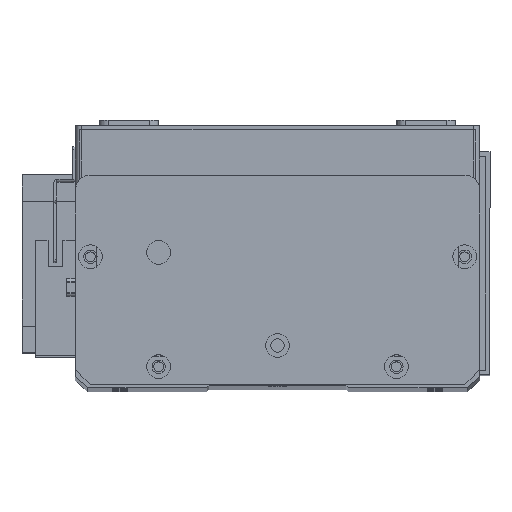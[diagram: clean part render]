
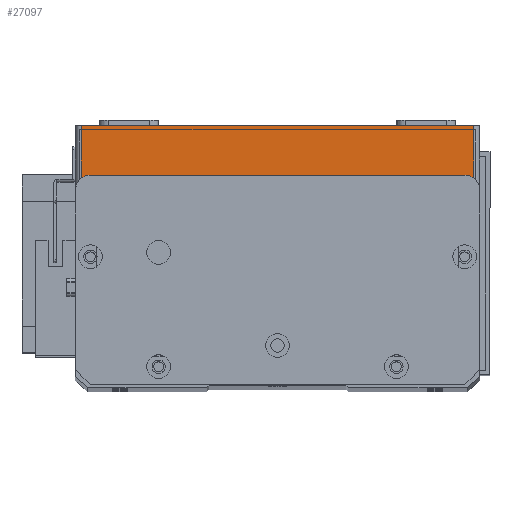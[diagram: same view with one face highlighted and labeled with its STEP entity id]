
A CAD part, top view. The second image highlights one B-rep face of the part: STEP entity #27097.
In plain terms, the highlighted planar face has unit normal (0, 0, 1) as drawn and (0, -1, 0) by its records, which use the part's own axes.
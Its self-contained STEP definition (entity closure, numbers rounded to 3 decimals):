
#220 = LINE ( 'NONE', #19037, #6219 ) ;
#1166 = LINE ( 'NONE', #17513, #17742 ) ;
#1415 = EDGE_CURVE ( 'NONE', #23926, #9148, #220, .T. ) ;
#1572 = DIRECTION ( 'NONE',  ( 1., 0., 0. ) ) ;
#1850 = DIRECTION ( 'NONE',  ( 0., 0., -1. ) ) ;
#3447 = CARTESIAN_POINT ( 'NONE',  ( 2., 0., 19.5 ) ) ;
#4571 = VERTEX_POINT ( 'NONE', #17708 ) ;
#4608 = CARTESIAN_POINT ( 'NONE',  ( 134., 0., 19.5 ) ) ;
#5302 = LINE ( 'NONE', #3447, #15847 ) ;
#5871 = ORIENTED_EDGE ( 'NONE', *, *, #13102, .T. ) ;
#6219 = VECTOR ( 'NONE', #1572, 1000. ) ;
#7616 = ORIENTED_EDGE ( 'NONE', *, *, #22190, .T. ) ;
#8808 = DIRECTION ( 'NONE',  ( 0., 0., 1. ) ) ;
#9148 = VERTEX_POINT ( 'NONE', #4608 ) ;
#9354 = ORIENTED_EDGE ( 'NONE', *, *, #1415, .F. ) ;
#10944 = AXIS2_PLACEMENT_3D ( 'NONE', #13265, #22311, #8808 ) ;
#11030 = EDGE_CURVE ( 'NONE', #23926, #4571, #5302, .T. ) ;
#12898 = ORIENTED_EDGE ( 'NONE', *, *, #11030, .T. ) ;
#13102 = EDGE_CURVE ( 'NONE', #28512, #9148, #15917, .T. ) ;
#13265 = CARTESIAN_POINT ( 'NONE',  ( 0., 0., 19.5 ) ) ;
#15847 = VECTOR ( 'NONE', #1850, 1000. ) ;
#15917 = LINE ( 'NONE', #17862, #28425 ) ;
#16752 = CARTESIAN_POINT ( 'NONE',  ( 134., 0., 0. ) ) ;
#17513 = CARTESIAN_POINT ( 'NONE',  ( 0., 0., 0. ) ) ;
#17694 = DIRECTION ( 'NONE',  ( 0., 0., 1. ) ) ;
#17708 = CARTESIAN_POINT ( 'NONE',  ( 2., 0., 0. ) ) ;
#17742 = VECTOR ( 'NONE', #19759, 1000. ) ;
#17862 = CARTESIAN_POINT ( 'NONE',  ( 134., 0., 19.5 ) ) ;
#18537 = EDGE_LOOP ( 'NONE', ( #9354, #12898, #7616, #5871 ) ) ;
#19037 = CARTESIAN_POINT ( 'NONE',  ( 0., 0., 19.5 ) ) ;
#19759 = DIRECTION ( 'NONE',  ( 1., 0., 0. ) ) ;
#20067 = PLANE ( 'NONE',  #10944 ) ;
#22190 = EDGE_CURVE ( 'NONE', #4571, #28512, #1166, .T. ) ;
#22311 = DIRECTION ( 'NONE',  ( 0., 1., 0. ) ) ;
#23926 = VERTEX_POINT ( 'NONE', #24359 ) ;
#24359 = CARTESIAN_POINT ( 'NONE',  ( 2., 0., 19.5 ) ) ;
#26213 = FACE_OUTER_BOUND ( 'NONE', #18537, .T. ) ;
#27097 = ADVANCED_FACE ( 'NONE', ( #26213 ), #20067, .F. ) ;
#28425 = VECTOR ( 'NONE', #17694, 1000. ) ;
#28512 = VERTEX_POINT ( 'NONE', #16752 ) ;
